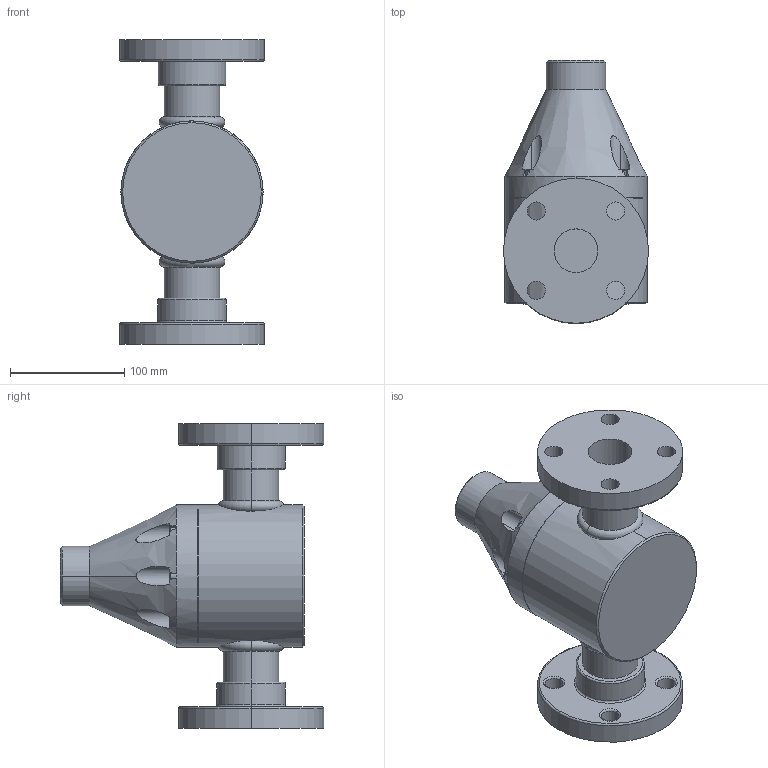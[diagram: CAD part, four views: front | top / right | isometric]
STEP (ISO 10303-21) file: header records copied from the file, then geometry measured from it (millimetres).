
FILE_DESCRIPTION (( 'STEP AP203' ), '1' );
FILE_NAME ('GBP1500-FLNG.STEP', '2016-02-12T10:22:50', ( '' ), ( '' ), 'SwSTEP 2.0', 'SolidWorks 2014', '' );
FILE_SCHEMA (( 'CONFIG_CONTROL_DESIGN' ));
Length unit declared in the file: inch
Products named in the file (2): GBP1500-FLNG
Bounding box: 127 x 230.5 x 266.7 mm (x, y, z)
Volume: 2465572.3 mm3; surface area: 193545 mm2
Topology: 1 solids, 1 shells, 245 faces, 604 edges, 384 vertices
Faces by surface type: plane 131, cylinder 68, torus 34, cone 12
Entity records: 8079 total; most frequent: CARTESIAN_POINT 2007, DIRECTION 1264, ORIENTED_EDGE 1208, EDGE_CURVE 604, AXIS2_PLACEMENT_3D 471, VERTEX_POINT 384, VECTOR 322, LINE 322
